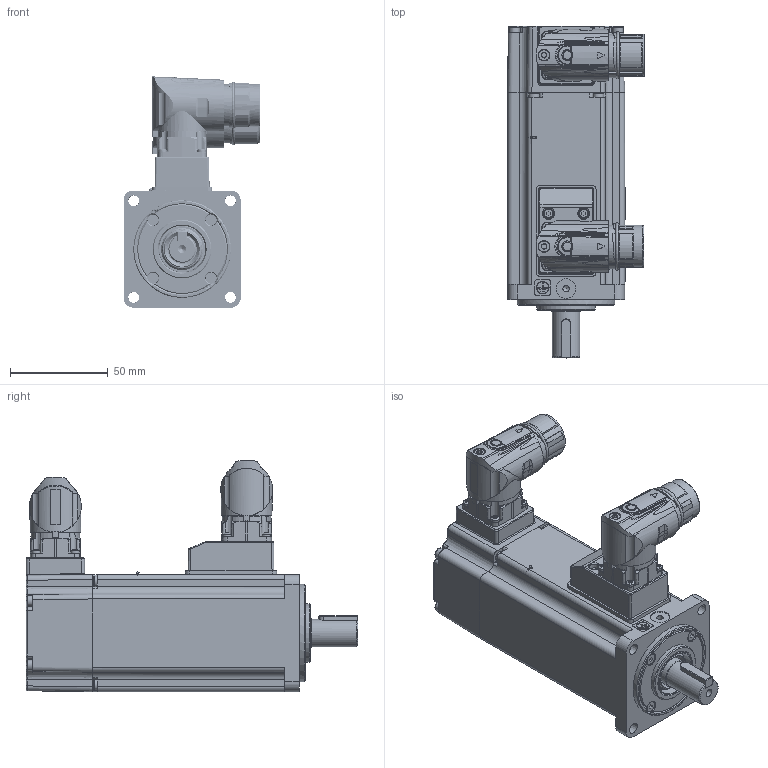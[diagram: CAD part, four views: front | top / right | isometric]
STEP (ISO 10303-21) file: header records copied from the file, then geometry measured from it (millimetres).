
FILE_DESCRIPTION(/* description */ ('AdapterTestApp'),/* implementation_level */ '2;1');
FILE_NAME(/* name */ 'TCE60 2A XX 3 A2 1 C2',/* time_stamp */ '2016-11-14T09:31:01+01:00',/* author */ ('AdapterTestApp'),/* organization */ ('Siemens PLM Software'),/* preprocessor_version */ 'ST-DEVELOPER v15.6',/* originating_system */ 'DEX',/* authorisation */ $);
FILE_SCHEMA (('AUTOMOTIVE_DESIGN {1 0 10303 214 3 1 1}'));
Products named in the file (1): TCE60 2A XX 3 A2 1 C2_vuoto
Bounding box: 70.16 x 170 x 118.5 mm (x, y, z)
Volume: 304925.7 mm3; surface area: 157061 mm2
Topology: 16 solids, 80 shells, 3125 faces, 7998 edges, 5144 vertices
Faces by surface type: plane 1463, cylinder 809, cone 301, bspline 249, torus 184, sphere 81, extrusion 38
Full cylindrical faces by diameter (mm): 1 x21, 1.2 x17, 1.4 x4, 1.5 x3, 2 x12, 2.013 x3, 2.2 x2, 2.459 x53, 2.5 x11, 2.6 x4, 2.65 x4, 2.7 x2, 2.8 x4, 3 x30, 3.2 x1, 3.242 x4, 3.4 x6, 3.5 x19, 4.134 x2, 4.4 x8, 4.5 x2, 4.7 x3, 5 x1, 5.5 x17, 5.8 x1, 5.9 x2, 6 x10, 6.5 x1, 6.8 x1, 8 x1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
Entity records: 106177 total; most frequent: CARTESIAN_POINT 36028, DIRECTION 14064, ORIENTED_EDGE 13972, EDGE_CURVE 6986, AXIS2_PLACEMENT_3D 5343, VERTEX_POINT 4834, FACE_BOUND 4122, EDGE_LOOP 4081
